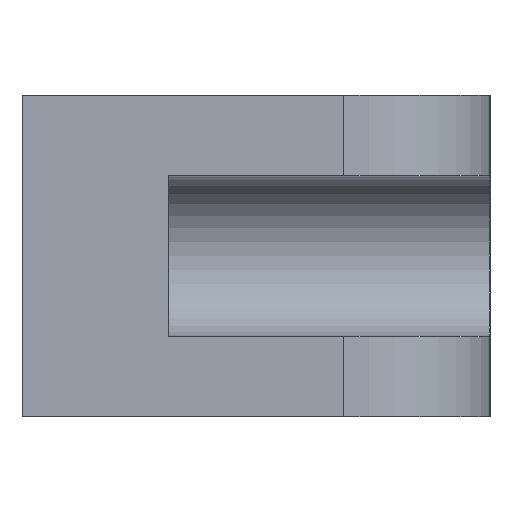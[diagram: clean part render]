
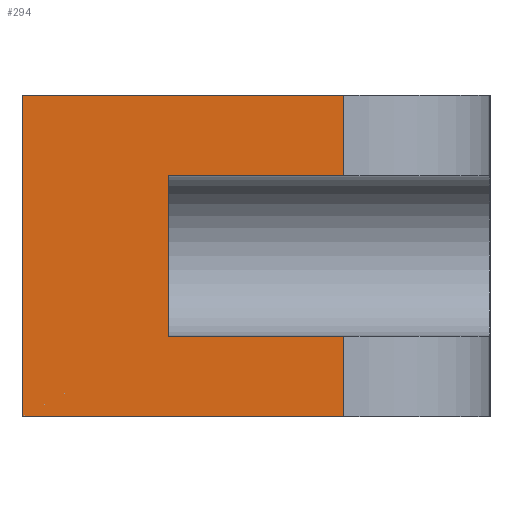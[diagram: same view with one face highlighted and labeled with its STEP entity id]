
A CAD part, left-side view. The second image highlights one B-rep face of the part: STEP entity #294.
In plain terms, the highlighted planar face has unit normal (-1, 0, 0).
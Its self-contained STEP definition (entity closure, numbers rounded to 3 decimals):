
#6 = DIRECTION ( 'NONE',  ( 0., -1., 0. ) ) ;
#16 = VECTOR ( 'NONE', #204, 1000. ) ;
#31 = EDGE_CURVE ( 'NONE', #692, #41, #104, .T. ) ;
#34 = VECTOR ( 'NONE', #546, 1000. ) ;
#41 = VERTEX_POINT ( 'NONE', #705 ) ;
#46 = EDGE_LOOP ( 'NONE', ( #52, #167, #118, #158, #262, #633, #425, #61 ) ) ;
#50 = EDGE_CURVE ( 'NONE', #593, #115, #86, .T. ) ;
#52 = ORIENTED_EDGE ( 'NONE', *, *, #271, .F. ) ;
#61 = ORIENTED_EDGE ( 'NONE', *, *, #471, .F. ) ;
#64 = VERTEX_POINT ( 'NONE', #267 ) ;
#66 = EDGE_CURVE ( 'NONE', #206, #548, #146, .T. ) ;
#82 = CARTESIAN_POINT ( 'NONE',  ( 0., 22., -5.5 ) ) ;
#86 = LINE ( 'NONE', #589, #142 ) ;
#104 = LINE ( 'NONE', #229, #108 ) ;
#105 = LINE ( 'NONE', #131, #251 ) ;
#108 = VECTOR ( 'NONE', #6, 1000. ) ;
#110 = DIRECTION ( 'NONE',  ( 0., 0., -1. ) ) ;
#112 = EDGE_CURVE ( 'NONE', #115, #206, #160, .T. ) ;
#114 = CARTESIAN_POINT ( 'NONE',  ( 0., 10., 11. ) ) ;
#115 = VERTEX_POINT ( 'NONE', #476 ) ;
#118 = ORIENTED_EDGE ( 'NONE', *, *, #386, .T. ) ;
#131 = CARTESIAN_POINT ( 'NONE',  ( 0., 22., -5.5 ) ) ;
#138 = CARTESIAN_POINT ( 'NONE',  ( 0., 10., 11. ) ) ;
#142 = VECTOR ( 'NONE', #110, 1000. ) ;
#146 = LINE ( 'NONE', #114, #162 ) ;
#158 = ORIENTED_EDGE ( 'NONE', *, *, #701, .F. ) ;
#160 = LINE ( 'NONE', #385, #215 ) ;
#162 = VECTOR ( 'NONE', #465, 1000. ) ;
#167 = ORIENTED_EDGE ( 'NONE', *, *, #31, .T. ) ;
#175 = CARTESIAN_POINT ( 'NONE',  ( 0., 22., 5.5 ) ) ;
#182 = CARTESIAN_POINT ( 'NONE',  ( 0., 22., 5.5 ) ) ;
#199 = CARTESIAN_POINT ( 'NONE',  ( 0., 0., 11. ) ) ;
#202 = CARTESIAN_POINT ( 'NONE',  ( 0., 0., 11. ) ) ;
#204 = DIRECTION ( 'NONE',  ( 0., -1., 0. ) ) ;
#206 = VERTEX_POINT ( 'NONE', #493 ) ;
#207 = LINE ( 'NONE', #202, #16 ) ;
#215 = VECTOR ( 'NONE', #350, 1000. ) ;
#229 = CARTESIAN_POINT ( 'NONE',  ( 0., 22., 5.5 ) ) ;
#251 = VECTOR ( 'NONE', #452, 1000. ) ;
#262 = ORIENTED_EDGE ( 'NONE', *, *, #50, .T. ) ;
#267 = CARTESIAN_POINT ( 'NONE',  ( 0., 10., 11. ) ) ;
#270 = PLANE ( 'NONE',  #698 ) ;
#271 = EDGE_CURVE ( 'NONE', #692, #640, #371, .T. ) ;
#276 = VECTOR ( 'NONE', #469, 1000. ) ;
#294 = ADVANCED_FACE ( 'NONE', ( #715 ), #270, .F. ) ;
#296 = DIRECTION ( 'NONE',  ( 0., 0., -1. ) ) ;
#317 = CARTESIAN_POINT ( 'NONE',  ( 0., 32., 11. ) ) ;
#350 = DIRECTION ( 'NONE',  ( 0., -1., 0. ) ) ;
#371 = LINE ( 'NONE', #182, #34 ) ;
#385 = CARTESIAN_POINT ( 'NONE',  ( 0., 0., -11. ) ) ;
#386 = EDGE_CURVE ( 'NONE', #41, #64, #529, .T. ) ;
#418 = CARTESIAN_POINT ( 'NONE',  ( 0., 10., -5.5 ) ) ;
#425 = ORIENTED_EDGE ( 'NONE', *, *, #66, .T. ) ;
#451 = DIRECTION ( 'NONE',  ( 1., 0., 0. ) ) ;
#452 = DIRECTION ( 'NONE',  ( 0., -1., 0. ) ) ;
#465 = DIRECTION ( 'NONE',  ( 0., 0., 1. ) ) ;
#469 = DIRECTION ( 'NONE',  ( 0., 0., 1. ) ) ;
#471 = EDGE_CURVE ( 'NONE', #640, #548, #105, .T. ) ;
#476 = CARTESIAN_POINT ( 'NONE',  ( 0., 32., -11. ) ) ;
#493 = CARTESIAN_POINT ( 'NONE',  ( 0., 10., -11. ) ) ;
#529 = LINE ( 'NONE', #138, #276 ) ;
#546 = DIRECTION ( 'NONE',  ( 0., 0., -1. ) ) ;
#548 = VERTEX_POINT ( 'NONE', #418 ) ;
#589 = CARTESIAN_POINT ( 'NONE',  ( 0., 32., 11. ) ) ;
#593 = VERTEX_POINT ( 'NONE', #317 ) ;
#633 = ORIENTED_EDGE ( 'NONE', *, *, #112, .T. ) ;
#640 = VERTEX_POINT ( 'NONE', #82 ) ;
#692 = VERTEX_POINT ( 'NONE', #175 ) ;
#698 = AXIS2_PLACEMENT_3D ( 'NONE', #199, #451, #296 ) ;
#701 = EDGE_CURVE ( 'NONE', #593, #64, #207, .T. ) ;
#705 = CARTESIAN_POINT ( 'NONE',  ( 0., 10., 5.5 ) ) ;
#715 = FACE_OUTER_BOUND ( 'NONE', #46, .T. ) ;
